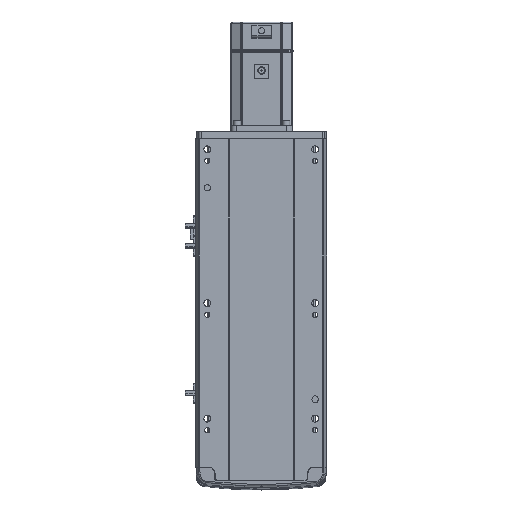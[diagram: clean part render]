
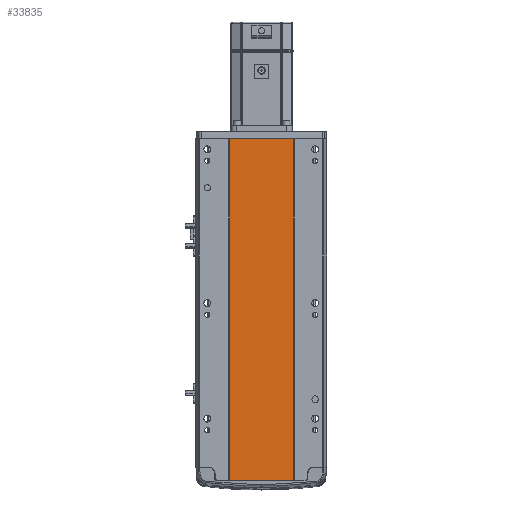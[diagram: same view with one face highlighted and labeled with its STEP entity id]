
A CAD part, front view. The second image highlights one B-rep face of the part: STEP entity #33835.
In plain terms, the highlighted planar face has unit normal (0, -1, 0).
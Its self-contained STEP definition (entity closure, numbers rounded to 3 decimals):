
#1610 = FACE_OUTER_BOUND ( 'NONE', #47021, .T. ) ;
#2467 = PLANE ( 'NONE',  #3648 ) ;
#3648 = AXIS2_PLACEMENT_3D ( 'NONE', #6899, #26536, #49719 ) ;
#6899 = CARTESIAN_POINT ( 'NONE',  ( 0., 0.999, 443.5 ) ) ;
#11881 = EDGE_CURVE ( 'NONE', #13735, #15861, #15949, .T. ) ;
#12587 = EDGE_CURVE ( 'NONE', #15861, #29154, #23790, .T. ) ;
#13085 = EDGE_CURVE ( 'NONE', #45868, #29154, #39080, .T. ) ;
#13735 = VERTEX_POINT ( 'NONE', #18453 ) ;
#15166 = LINE ( 'NONE', #21395, #45150 ) ;
#15861 = VERTEX_POINT ( 'NONE', #21412 ) ;
#15949 = LINE ( 'NONE', #39380, #30610 ) ;
#17116 = DIRECTION ( 'NONE',  ( 1., 0., 0. ) ) ;
#18453 = CARTESIAN_POINT ( 'NONE',  ( -41.791, 1., 443.5 ) ) ;
#21395 = CARTESIAN_POINT ( 'NONE',  ( 0., 0.999, 443.5 ) ) ;
#21412 = CARTESIAN_POINT ( 'NONE',  ( -41.791, 1., 0. ) ) ;
#23790 = LINE ( 'NONE', #42380, #31715 ) ;
#24138 = CARTESIAN_POINT ( 'NONE',  ( 41.793, 0.998, 443.5 ) ) ;
#26536 = DIRECTION ( 'NONE',  ( 0., 1., 0. ) ) ;
#27871 = CARTESIAN_POINT ( 'NONE',  ( 41.793, 0.998, 443.5 ) ) ;
#29154 = VERTEX_POINT ( 'NONE', #33428 ) ;
#30610 = VECTOR ( 'NONE', #43484, 1000. ) ;
#31715 = VECTOR ( 'NONE', #38610, 1000. ) ;
#32128 = ORIENTED_EDGE ( 'NONE', *, *, #12587, .T. ) ;
#32311 = VECTOR ( 'NONE', #39738, 1000. ) ;
#33070 = EDGE_CURVE ( 'NONE', #13735, #45868, #15166, .T. ) ;
#33428 = CARTESIAN_POINT ( 'NONE',  ( 41.793, 0.998, 0. ) ) ;
#33835 = ADVANCED_FACE ( 'NONE', ( #1610 ), #2467, .F. ) ;
#35543 = ORIENTED_EDGE ( 'NONE', *, *, #11881, .T. ) ;
#36615 = ORIENTED_EDGE ( 'NONE', *, *, #33070, .F. ) ;
#38610 = DIRECTION ( 'NONE',  ( 1., 0., 0. ) ) ;
#39080 = LINE ( 'NONE', #24138, #32311 ) ;
#39380 = CARTESIAN_POINT ( 'NONE',  ( -41.791, 1., 443.5 ) ) ;
#39738 = DIRECTION ( 'NONE',  ( 0., 0., -1. ) ) ;
#42380 = CARTESIAN_POINT ( 'NONE',  ( 0., 0.999, 0. ) ) ;
#43484 = DIRECTION ( 'NONE',  ( 0., 0., -1. ) ) ;
#45150 = VECTOR ( 'NONE', #17116, 1000. ) ;
#45868 = VERTEX_POINT ( 'NONE', #27871 ) ;
#47021 = EDGE_LOOP ( 'NONE', ( #32128, #49161, #36615, #35543 ) ) ;
#49161 = ORIENTED_EDGE ( 'NONE', *, *, #13085, .F. ) ;
#49719 = DIRECTION ( 'NONE',  ( -1., 0., 0. ) ) ;
